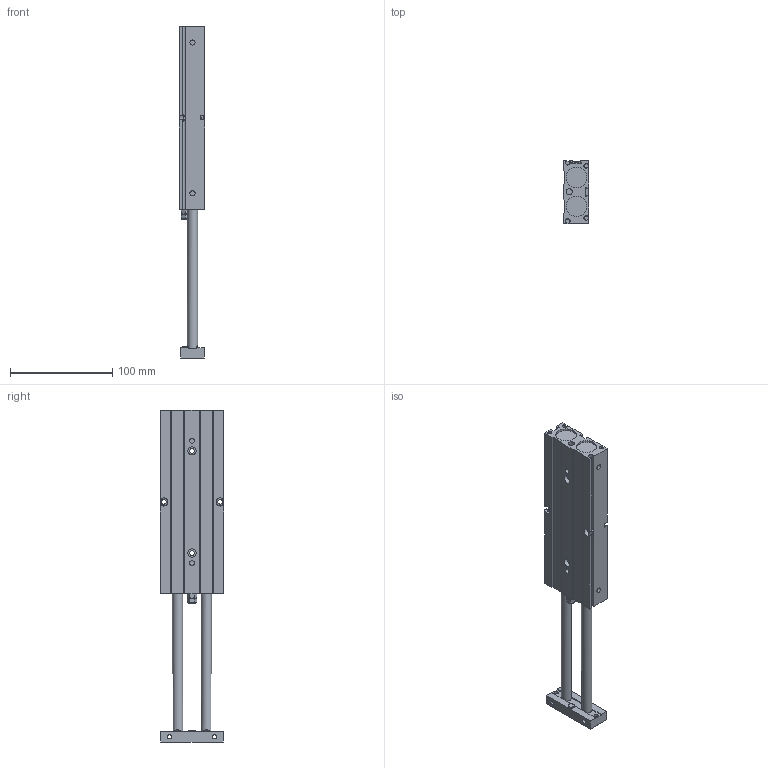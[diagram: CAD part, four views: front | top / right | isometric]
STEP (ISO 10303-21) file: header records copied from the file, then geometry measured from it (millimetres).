
FILE_DESCRIPTION((''),'2;1');
FILE_NAME('I:\3D電子目錄\氣缸\TD\TD20\TD20\TD20x125.stp','2007-08-06T09:47:39',('Administrator'),(''),'Autodesk Inventor 2008','Autodesk Inventor 2008','');
FILE_SCHEMA(('AUTOMOTIVE_DESIGN { 1 0 10303 214 1 1 1 1 }'));
Length unit declared in the file: millimetre
Products named in the file (1): TD20X125
Bounding box: 25 x 62 x 325 mm (x, y, z)
Volume: 281842.9 mm3; surface area: 61603.4 mm2
Topology: 1 solids, 3 shells, 197 faces, 503 edges, 329 vertices
Faces by surface type: plane 136, cylinder 48, cone 7, bspline 4, torus 2
Full cylindrical faces by diameter (mm): 4 x4, 4.5 x4, 5 x4, 6 x2, 7 x2, 8 x6, 9 x2, 10 x2, 20 x4
Entity records: 6108 total; most frequent: CARTESIAN_POINT 1453, DIRECTION 927, ORIENTED_EDGE 916, EDGE_CURVE 458, VERTEX_POINT 323, AXIS2_PLACEMENT_3D 310, VECTOR 307, LINE 307
